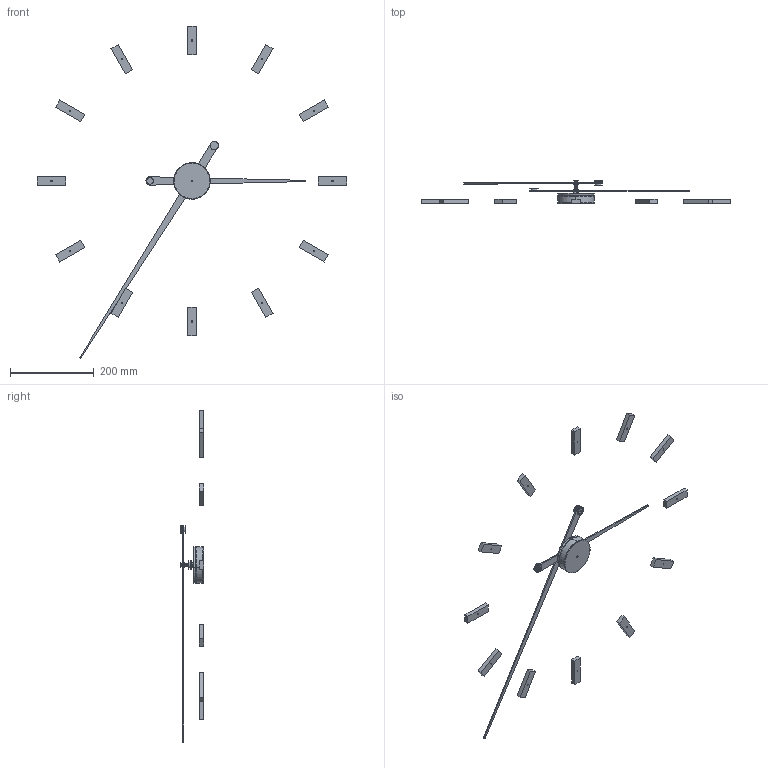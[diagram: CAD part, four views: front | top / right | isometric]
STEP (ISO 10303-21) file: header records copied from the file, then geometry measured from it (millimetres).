
FILE_DESCRIPTION (( 'STEP AP214' ), '1' );
FILE_NAME ('Tacón L.STEP', '2016-09-15T10:39:07', ( '' ), ( '' ), 'SwSTEP 2.0', 'SolidWorks 2013', '' );
FILE_SCHEMA (( 'AUTOMOTIVE_DESIGN' ));
Length unit declared in the file: millimetre
Products named in the file (21): Embellecedor; Axioma_L_100_Tacón L; Señal_horaria_Tacón; Tuerca 1.5; Agujas_minutera_lacada_100_Tacón; Tacón L; Contrapeso grande; Inserto horaria; Agujas_horaria_lacada_100_Tacón; Mecanismo; Cierre_contrapeso; Pieza2; tuerca_7.3_1.5; Contrapeso_pequeño; aguja_horaria_lacada_100_Tacón; aguja_minutera_lacada_100_Tacón; Pieza_caja_inferior; Arandela_2; Pieza_caja_superior; Esparrago; Caja_acero_inox
Assembly tree (33 placements, depth 4):
  Tacón L
    Axioma_L_100_Tacón L
      Caja_acero_inox
        Pieza_caja_inferior
        Pieza_caja_superior
        Mecanismo
        Pieza2
      Agujas_horaria_lacada_100_Tacón
        aguja_horaria_lacada_100_Tacón
        tuerca_7.3_1.5
        Arandela_2
        Inserto horaria
        Contrapeso_pequeño
        Cierre_contrapeso
      Agujas_minutera_lacada_100_Tacón
        aguja_minutera_lacada_100_Tacón
        Contrapeso_pequeño
        Embellecedor
        Arandela_2
        Esparrago
        Tuerca 1.5
        Contrapeso grande
    Señal_horaria_Tacón  x12
Bounding box: 740.44 x 55.8 x 793.19 mm (x, y, z)
Volume: 263084.6 mm3; surface area: 145707.9 mm2
Topology: 29 solids, 29 shells, 317 faces, 644 edges, 414 vertices
Faces by surface type: plane 155, cylinder 124, torus 26, cone 12
Entity records: 6370 total; most frequent: DIRECTION 1140, CARTESIAN_POINT 920, ORIENTED_EDGE 832, AXIS2_PLACEMENT_3D 482, EDGE_CURVE 416, VERTEX_POINT 262, EDGE_LOOP 240, CIRCLE 240
